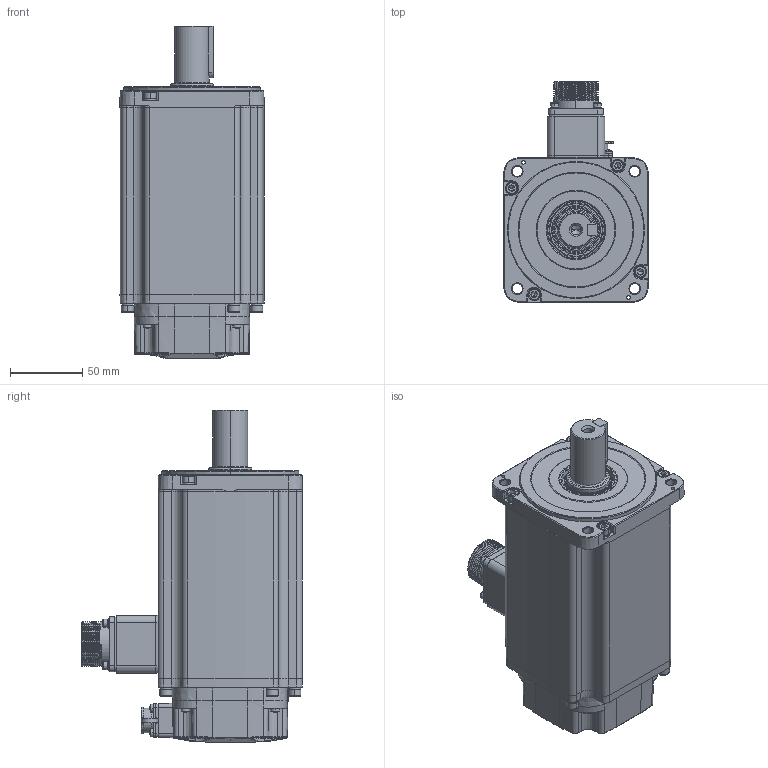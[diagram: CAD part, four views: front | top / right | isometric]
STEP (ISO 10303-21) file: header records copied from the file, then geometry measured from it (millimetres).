
FILE_DESCRIPTION (( 'STEP AP214' ), '1' );
FILE_NAME ('UMM-0020CA_EA-B5.STEP', '2024-08-20T08:32:18', ( '' ), ( '' ), 'SwSTEP 2.0', 'SolidWorks 2022', '' );
FILE_SCHEMA (( 'AUTOMOTIVE_DESIGN' ));
Length unit declared in the file: millimetre
Products named in the file (1): UMM-0020CA_EA-B5
Bounding box: 100 x 153.05 x 230 mm (x, y, z)
Surface area: 239012.1 mm2 (no closed solid volume)
Topology: 0 solids, 56 shells, 2187 faces, 5528 edges, 3510 vertices
Faces by surface type: cylinder 784, plane 751, bspline 362, cone 280, sphere 10
Entity records: 81568 total; most frequent: CARTESIAN_POINT 31047, ORIENTED_EDGE 10865, DIRECTION 9865, EDGE_CURVE 5434, AXIS2_PLACEMENT_3D 3820, VERTEX_POINT 3500, EDGE_LOOP 2491, VECTOR 2225
